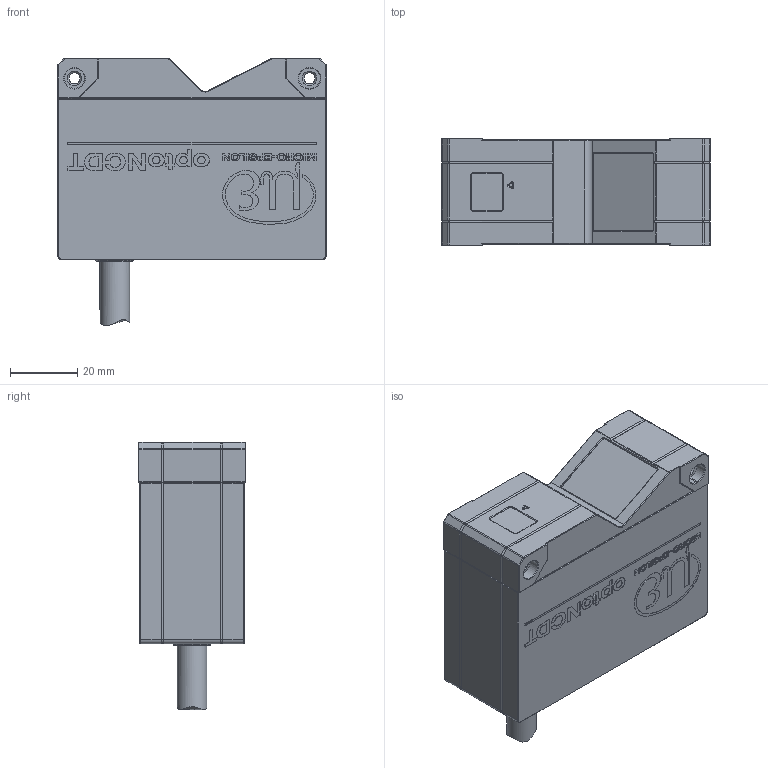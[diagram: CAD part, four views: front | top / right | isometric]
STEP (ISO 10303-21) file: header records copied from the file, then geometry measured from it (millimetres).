
FILE_DESCRIPTION (( 'STEP AP214' ), '1' );
FILE_NAME ('ILD5500-10_Sensormodell.STEP', '2024-11-27T08:05:32', ( '' ), ( '' ), 'SwSTEP 2.0', 'SolidWorks 2022', '' );
FILE_SCHEMA (( 'AUTOMOTIVE_DESIGN' ));
Length unit declared in the file: millimetre
Products named in the file (1): ILD5500-10_Sensormodell
Bounding box: 80 x 32 x 79.66 mm (x, y, z)
Volume: 143161.2 mm3; surface area: 21289.4 mm2
Topology: 1 solids, 4 shells, 1681 faces, 4452 edges, 2898 vertices
Faces by surface type: plane 813, bspline 681, cylinder 115, cone 66, torus 6
Full cylindrical faces by diameter (mm): 0.7 x1, 2.4 x2, 3.3 x2, 3.5 x1, 6 x2, 8.8 x1, 10 x2, 10.5 x2
Entity records: 80892 total; most frequent: CARTESIAN_POINT 25765, ORIENTED_EDGE 8784, DIRECTION 5282, EDGE_CURVE 4392, VERTEX_POINT 2878, VECTOR 2730, LINE 2730, EDGE_LOOP 1844
